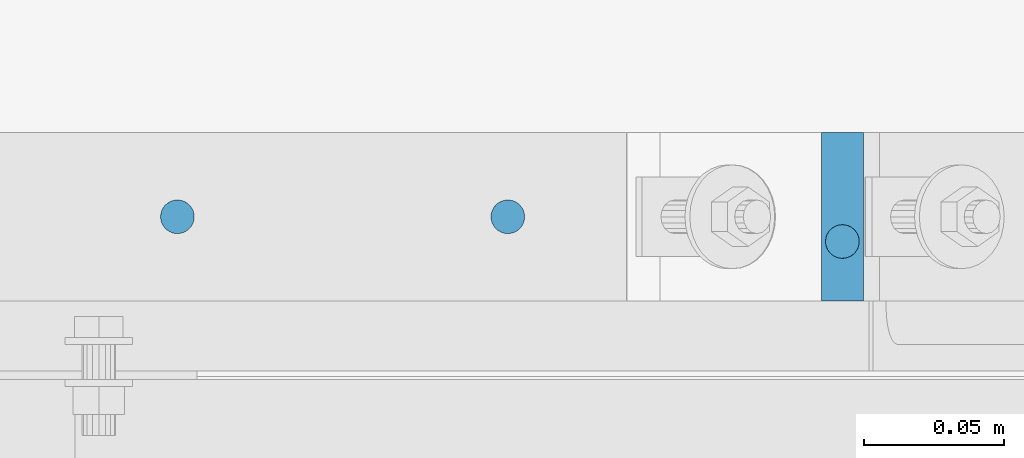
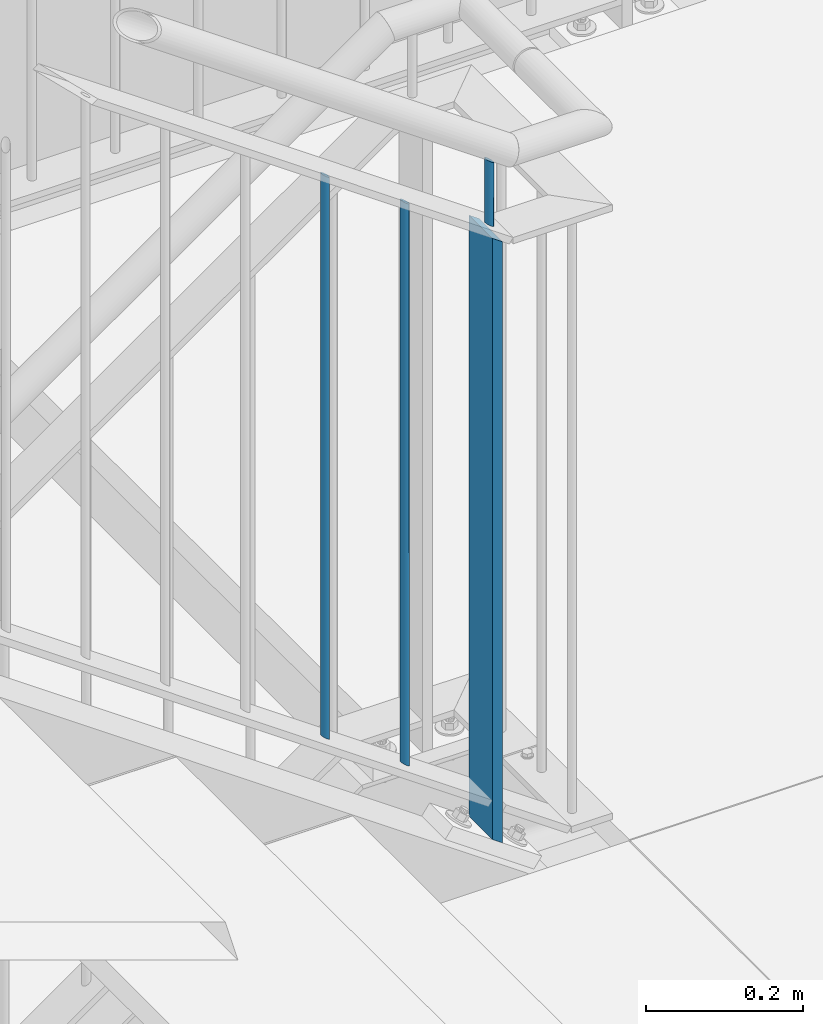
# One storey, part 95 of 825: 4 columns.
"""IFC2X3 building model written with IfcOpenShell, lengths in millimetres."""

from ifc_helpers import new_model, entity, si_unit, converted_unit, frame, origin, origin_with_axes, origin_2d, place, context, project, spatial, rectangle, circle, extrude, clip, halfspace, material, element, save


model = new_model("IFC2X3")

# Units and contexts
model_context = context("Model", 3, precision=1e-09, world=origin_with_axes())
ifc_project = project(units=[si_unit("LENGTHUNIT", "METRE", prefix="MILLI"), si_unit("AREAUNIT", "SQUARE_METRE"), si_unit("VOLUMEUNIT", "CUBIC_METRE"), converted_unit("PLANEANGLEUNIT", "DEGREE", entity("IfcPlaneAngleMeasure", 0.01745329), si_unit("PLANEANGLEUNIT", "RADIAN"), dimensions=[0, 0, 0, 0, 0, 0, 0])], contexts=[model_context])

# Site, building, storey
site_placement = place(None, origin_with_axes())
site = spatial("IfcSite", under=ifc_project, at=site_placement, Name="Cnopf'sche Kinderklinik", CompositionType="ELEMENT")
building_placement = place(site_placement, origin_with_axes())
building = spatial("IfcBuilding", under=site, at=building_placement, Name="Struktur 1", CompositionType="ELEMENT")
storey_placement = place(building_placement, origin_with_axes())
storey = spatial("IfcBuildingStorey", under=building, at=storey_placement, Name="Default Storey", CompositionType="ELEMENT", Elevation=0.0)

# Columns
ifc_material = material(Name="S235JR")
column_1_placement = place(None, frame((7546.714402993, 5791.736971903, 6735.646879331), z_axis=(0.0, 0.0, 1.0), x_axis=(-1.0, 0.0, 0.0)))
element("IfcColumn", 1, at=column_1_placement, inside=storey, material=ifc_material, Name="Railing_Post_Stair#0", ObjectType="Railing_Post_Stair#0", context=model_context, shape_type="Clipping", body=[
    clip(clip(extrude(rectangle(XDim=15.0, YDim=60.0, at=origin_2d()), origin(), (0.0, 0.0, -1.0), 1013.014378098), halfspace(frame((2340.234381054, 5791.736971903, 670.057499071), z_axis=(-0.57512827, 0.0, 0.818063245), x_axis=(0.0, -1.0, 0.0)), True)), halfspace(frame((1899.190799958, 5791.736971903, 1297.39849832), z_axis=(0.57512827, 0.0, -0.818063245), x_axis=(0.0, 1.0, 0.0)), True)),
])
column_2_placement = place(None, frame((7427.464402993, 5791.736971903, 6792.055764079), z_axis=(0.0, 0.0, 1.0), x_axis=(-1.0, 0.0, 0.0)))
element("IfcColumn", 2, at=column_2_placement, inside=storey, material=ifc_material, Name="Railing_Picket_Stair#0", ObjectType="Railing_Picket_Stair#0", context=model_context, shape_type="Clipping", body=[
    clip(clip(extrude(circle(Radius=6.0, at=origin_2d()), origin(), (0.0, 0.0, -1.0), 897.037988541), halfspace(frame((1779.940799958, 5791.736971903, 1240.989613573), z_axis=(0.57512827, 0.0, -0.818063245), x_axis=(0.0, 1.0, 0.0)), True)), halfspace(frame((2192.22796757, 5791.736971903, 654.551776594), z_axis=(-0.57512827, 0.0, 0.818063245), x_axis=(0.0, -1.0, 0.0)), True)),
])
column_3_placement = place(None, frame((7309.714347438, 5791.736971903, 6874.838343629), z_axis=(0.0, 0.0, 1.0), x_axis=(-1.0, 0.0, 0.0)))
element("IfcColumn", 3, at=column_3_placement, inside=storey, material=ifc_material, Name="Railing_Picket_Stair#1", ObjectType="Railing_Picket_Stair#1", context=model_context, shape_type="Clipping", body=[
    clip(clip(extrude(circle(Radius=6.0, at=origin_2d()), origin(), (0.0, 0.0, -1.0), 897.037988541), halfspace(frame((1662.190744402, 5791.736971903, 1158.207034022), z_axis=(0.57512827, 0.0, -0.818063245), x_axis=(0.0, 1.0, 0.0)), True)), halfspace(frame((2074.477912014, 5791.736971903, 571.769197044), z_axis=(-0.57512827, 0.0, 0.818063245), x_axis=(0.0, -1.0, 0.0)), True)),
])
column_4_placement = place(None, frame((7546.714402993, 5782.936971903, 6820.44266268), z_axis=(0.0, 0.0, 1.0), x_axis=(0.0, 1.0, 0.0)))
element("IfcColumn", 4, at=column_4_placement, inside=storey, material=ifc_material, Name="Bar#0", ObjectType="Bar#0", context=model_context, shape_type="Clipping", body=[
    clip(clip(extrude(circle(Radius=6.0, at=origin_2d()), origin(), (0.0, 0.0, -1.0), 120.744805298), halfspace(frame((-5782.936971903, 1893.438367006, 1220.784983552), z_axis=(0.0, -0.57512827, 0.818063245), x_axis=(1.0, 0.0, 0.0)), True)), halfspace(frame((-5782.936971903, 1846.390387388, 1287.70609478), z_axis=(0.0, 0.57512827, -0.818063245), x_axis=(-1.0, 0.0, 0.0)), True)),
])

save(model, "model.ifc")
